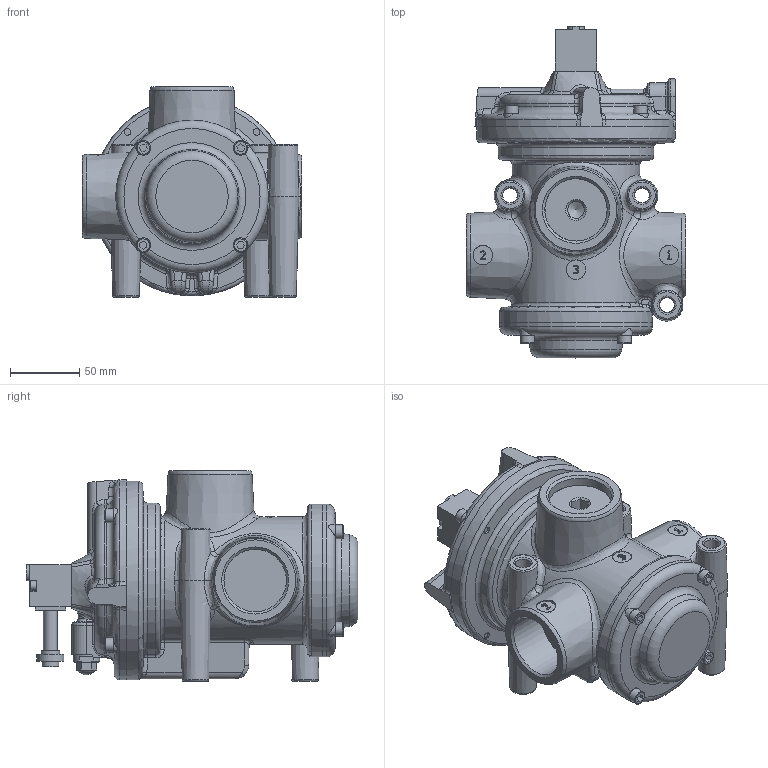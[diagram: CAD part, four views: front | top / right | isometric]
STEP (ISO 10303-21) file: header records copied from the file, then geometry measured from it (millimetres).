
FILE_DESCRIPTION(/* description */ ('EV.OTT. x VUOTO 2/2 NC SOL-MOLLA ALIM.EST. CON M3R'),/* implementation_level */ '2;1');
FILE_NAME(/* name */ 'C:\PNX_VAULTFOLDER\Area Tecnica\Disegni\VARIE-3D\Componenti\1900 (vuoto)\N776-V_22_0_1C_M3R.stp',/* time_stamp */ '2019-09-13T14:10:19+02:00',/* author */ ('maniean1'),/* organization */ ('Pneumax S.p.A.'),/* preprocessor_version */ 'ST-DEVELOPER v17',/* originating_system */ 'Autodesk Inventor 2019',/* authorisation */ '');
FILE_SCHEMA (('AUTOMOTIVE_DESIGN { 1 0 10303 214 3 1 1 }'));
Length unit declared in the file: millimetre
Products named in the file (1): N776/V.22.0.1C.M3R
Bounding box: 158 x 239 x 151.5 mm (x, y, z)
Volume: 1959548.6 mm3; surface area: 174067.2 mm2
Topology: 1 solids, 21 shells, 763 faces, 1911 edges, 1219 vertices
Faces by surface type: plane 277, bspline 204, cylinder 122, cone 83, torus 67, sphere 10
Full cylindrical faces by diameter (mm): 4.917 x8, 6 x11, 7 x3, 7.3 x1, 8 x4, 8.68 x1, 10 x9, 12 x2, 13.3 x1, 14 x3, 15 x1, 18 x1, 19 x1, 19.5 x1, 44.8 x1, 45 x4, 110 x2, 143 x1
Entity records: 32822 total; most frequent: CARTESIAN_POINT 14907, ORIENTED_EDGE 3792, DIRECTION 3180, EDGE_CURVE 1896, AXIS2_PLACEMENT_3D 1277, VERTEX_POINT 1219, EDGE_LOOP 833, FACE_OUTER_BOUND 763
